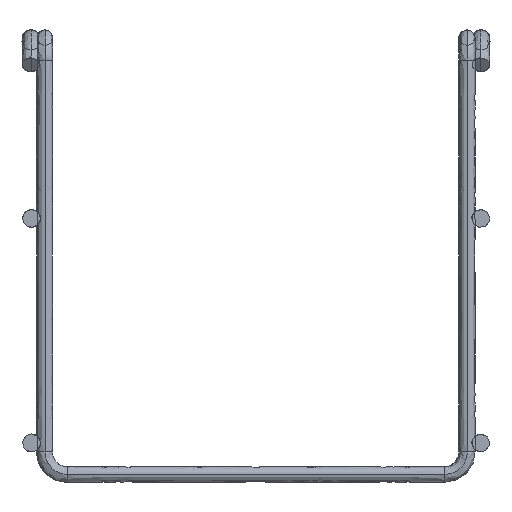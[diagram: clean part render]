
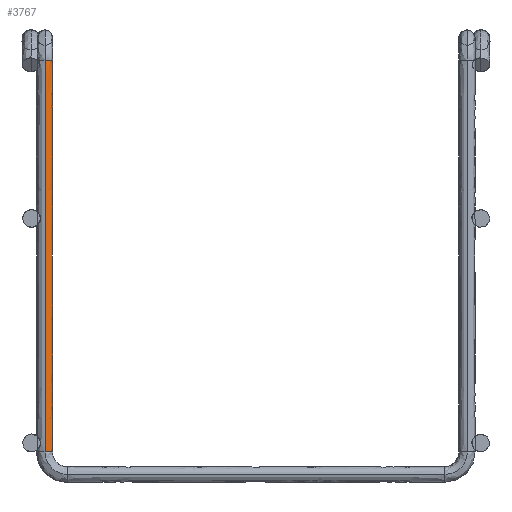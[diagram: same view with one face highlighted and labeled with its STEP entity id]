
A CAD part, front view. The second image highlights one B-rep face of the part: STEP entity #3767.
In plain terms, the highlighted free-form (B-spline) face has degree [2, 3] with [5, 4] control points.
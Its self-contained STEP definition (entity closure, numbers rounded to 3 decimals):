
#3767=ADVANCED_FACE($,(#4391),#11011,.T.);
#4391=FACE_OUTER_BOUND($,#5015,.T.);
#5015=EDGE_LOOP($,(#6158,#6159,#6160,#6161));
#6158=ORIENTED_EDGE($,*,*,#8445,.T.);
#6159=ORIENTED_EDGE($,*,*,#8443,.F.);
#6160=ORIENTED_EDGE($,*,*,#8442,.F.);
#6161=ORIENTED_EDGE($,*,*,#8447,.F.);
#8442=EDGE_CURVE($,#10118,#10119,#11978,.T.);
#8443=EDGE_CURVE($,#10119,#10121,#11979,.T.);
#8445=EDGE_CURVE($,#10120,#10121,#11981,.T.);
#8447=EDGE_CURVE($,#10120,#10118,#11983,.T.);
#10118=VERTEX_POINT($,#30696);
#10119=VERTEX_POINT($,#30697);
#10120=VERTEX_POINT($,#30698);
#10121=VERTEX_POINT($,#30699);
#11011=(
BOUNDED_SURFACE()
B_SPLINE_SURFACE(2,3,((#30676,#30677,#30678,#30679),(#30680,#30681,#30682,
#30683),(#30684,#30685,#30686,#30687),(#30688,#30689,#30690,#30691),(#30692,
#30693,#30694,#30695)),.UNSPECIFIED.,.F.,.F.,.F.)
B_SPLINE_SURFACE_WITH_KNOTS((3,2,3),(4,4),(5.498,8.247,
10.996),(0.,87.25),.UNSPECIFIED.)
GEOMETRIC_REPRESENTATION_ITEM()
RATIONAL_B_SPLINE_SURFACE(((1.,1.,1.,1.),(0.707,0.707,
0.707,0.707),(1.,1.,1.,1.),(0.707,0.707,
0.707,0.707),(1.,1.,1.,1.)))
REPRESENTATION_ITEM($)
SURFACE()
);
#11978=(
BOUNDED_CURVE()
B_SPLINE_CURVE(3,(#30628,#30629,#30630,#30631),.UNSPECIFIED.,.F.,.F.)
B_SPLINE_CURVE_WITH_KNOTS((4,4),(0.,87.25),.UNSPECIFIED.)
CURVE()
GEOMETRIC_REPRESENTATION_ITEM()
RATIONAL_B_SPLINE_CURVE((1.,1.,1.,1.))
REPRESENTATION_ITEM($)
);
#11979=(
BOUNDED_CURVE()
B_SPLINE_CURVE(2,(#30632,#30633,#30634,#30635,#30636),.UNSPECIFIED.,.F.,
.F.)
B_SPLINE_CURVE_WITH_KNOTS((3,2,3),(5.498,8.247,10.996),
.UNSPECIFIED.)
CURVE()
GEOMETRIC_REPRESENTATION_ITEM()
RATIONAL_B_SPLINE_CURVE((1.,0.707,1.,0.707,1.))
REPRESENTATION_ITEM($)
);
#11981=(
BOUNDED_CURVE()
B_SPLINE_CURVE(3,(#30642,#30643,#30644,#30645),.UNSPECIFIED.,.F.,.F.)
B_SPLINE_CURVE_WITH_KNOTS((4,4),(0.,87.25),.UNSPECIFIED.)
CURVE()
GEOMETRIC_REPRESENTATION_ITEM()
RATIONAL_B_SPLINE_CURVE((1.,1.,1.,1.))
REPRESENTATION_ITEM($)
);
#11983=(
BOUNDED_CURVE()
B_SPLINE_CURVE(2,(#30651,#30652,#30653,#30654,#30655),.UNSPECIFIED.,.F.,
.F.)
B_SPLINE_CURVE_WITH_KNOTS((3,2,3),(-10.996,-8.247,-5.498),
.UNSPECIFIED.)
CURVE()
GEOMETRIC_REPRESENTATION_ITEM()
RATIONAL_B_SPLINE_CURVE((1.,0.707,1.,0.707,1.))
REPRESENTATION_ITEM($)
);
#30628=CARTESIAN_POINT($,(-73.881,0.17,5.));
#30629=CARTESIAN_POINT($,(-73.881,0.17,34.083));
#30630=CARTESIAN_POINT($,(-73.881,0.17,63.167));
#30631=CARTESIAN_POINT($,(-73.881,0.17,92.25));
#30632=CARTESIAN_POINT($,(-73.881,0.17,92.25));
#30633=CARTESIAN_POINT($,(-72.131,0.17,92.25));
#30634=CARTESIAN_POINT($,(-72.131,1.92,92.25));
#30635=CARTESIAN_POINT($,(-72.131,3.67,92.25));
#30636=CARTESIAN_POINT($,(-73.881,3.67,92.25));
#30642=CARTESIAN_POINT($,(-73.881,3.67,5.));
#30643=CARTESIAN_POINT($,(-73.881,3.67,34.083));
#30644=CARTESIAN_POINT($,(-73.881,3.67,63.167));
#30645=CARTESIAN_POINT($,(-73.881,3.67,92.25));
#30651=CARTESIAN_POINT($,(-73.881,3.67,5.));
#30652=CARTESIAN_POINT($,(-72.131,3.67,5.));
#30653=CARTESIAN_POINT($,(-72.131,1.92,5.));
#30654=CARTESIAN_POINT($,(-72.131,0.17,5.));
#30655=CARTESIAN_POINT($,(-73.881,0.17,5.));
#30676=CARTESIAN_POINT($,(-73.881,0.17,5.));
#30677=CARTESIAN_POINT($,(-73.881,0.17,34.083));
#30678=CARTESIAN_POINT($,(-73.881,0.17,63.167));
#30679=CARTESIAN_POINT($,(-73.881,0.17,92.25));
#30680=CARTESIAN_POINT($,(-72.131,0.17,5.));
#30681=CARTESIAN_POINT($,(-72.131,0.17,34.083));
#30682=CARTESIAN_POINT($,(-72.131,0.17,63.167));
#30683=CARTESIAN_POINT($,(-72.131,0.17,92.25));
#30684=CARTESIAN_POINT($,(-72.131,1.92,5.));
#30685=CARTESIAN_POINT($,(-72.131,1.92,34.083));
#30686=CARTESIAN_POINT($,(-72.131,1.92,63.167));
#30687=CARTESIAN_POINT($,(-72.131,1.92,92.25));
#30688=CARTESIAN_POINT($,(-72.131,3.67,5.));
#30689=CARTESIAN_POINT($,(-72.131,3.67,34.083));
#30690=CARTESIAN_POINT($,(-72.131,3.67,63.167));
#30691=CARTESIAN_POINT($,(-72.131,3.67,92.25));
#30692=CARTESIAN_POINT($,(-73.881,3.67,5.));
#30693=CARTESIAN_POINT($,(-73.881,3.67,34.083));
#30694=CARTESIAN_POINT($,(-73.881,3.67,63.167));
#30695=CARTESIAN_POINT($,(-73.881,3.67,92.25));
#30696=CARTESIAN_POINT($,(-73.881,0.17,5.));
#30697=CARTESIAN_POINT($,(-73.881,0.17,92.25));
#30698=CARTESIAN_POINT($,(-73.881,3.67,5.));
#30699=CARTESIAN_POINT($,(-73.881,3.67,92.25));
